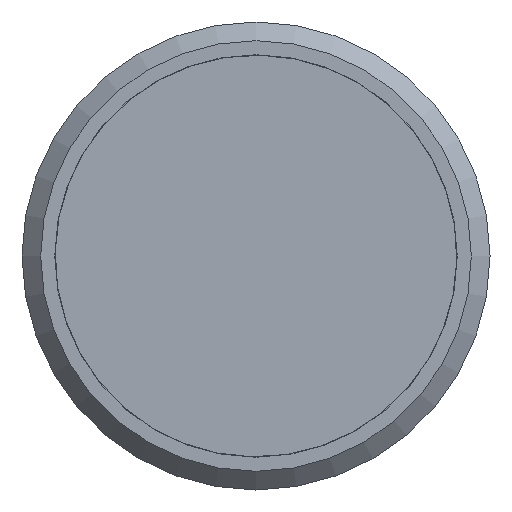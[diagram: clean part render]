
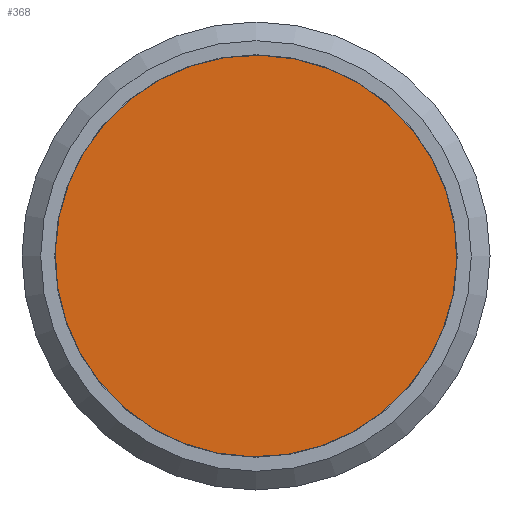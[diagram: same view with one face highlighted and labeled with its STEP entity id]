
A CAD part, left-side view. The second image highlights one B-rep face of the part: STEP entity #368.
In plain terms, the highlighted planar face has unit normal (-1, 0, 0).
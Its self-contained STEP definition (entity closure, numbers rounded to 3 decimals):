
#26=PLANE('',#409);
#62=ORIENTED_EDGE('',*,*,#86,.T.);
#86=EDGE_CURVE('',#105,#105,#124,.T.);
#105=VERTEX_POINT('',#547);
#124=CIRCLE('',#410,12.875);
#157=EDGE_LOOP('',(#62));
#195=FACE_BOUND('',#157,.T.);
#368=ADVANCED_FACE('',(#195),#26,.T.);
#409=AXIS2_PLACEMENT_3D('',#545,#481,#482);
#410=AXIS2_PLACEMENT_3D('',#546,#483,#484);
#481=DIRECTION('',(-1.,0.,0.));
#482=DIRECTION('',(0.,-0.981,-0.196));
#483=DIRECTION('',(-1.,0.,0.));
#484=DIRECTION('',(0.,-0.981,-0.196));
#545=CARTESIAN_POINT('',(0.,0.,0.));
#546=CARTESIAN_POINT('',(0.,0.,0.));
#547=CARTESIAN_POINT('',(0.,-12.626,-2.52));
